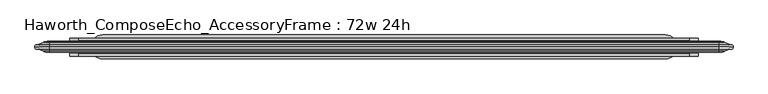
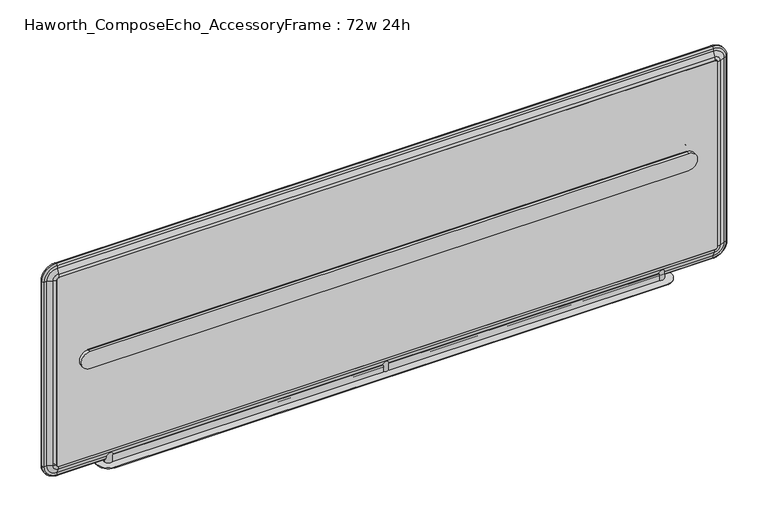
"""IFC4 building model written with IfcOpenShell, lengths in millimetres: furniture geometry, Haworth_ComposeEcho_AccessoryFrame : 72w 24h."""

from ifc_helpers import new_model, si_unit, point, frame, frame_2d, origin, place, context, project, spatial, polyline, circle_curve, ellipse_curve, trimmed, segment, composite_curve, outline, extrude, source, transform, mapped, element, save
from ifc_brep_helpers import plane_surface, cylinder_surface, revolved_surface, advanced_brep


def haworth_composeecho_accessoryframe_72w_24h_1963754a(model_context):
    return source(origin(), model_context, "Body", "SolidModel", [
        extrude(outline(composite_curve([segment(trimmed(circle_curve(frame_2d((1636.1130983, -873.8759879)), 6.3337219), [point((1642.4468202, -873.8759879))], [point((1636.1130983, -880.2097098))], False, "CARTESIAN"), True, "CONTINUOUS"), segment(polyline([(1636.1130983, -880.2097098), (1115.0680007, -880.2097098)]), True, "CONTINUOUS"), segment(trimmed(circle_curve(frame_2d((1115.0680007, -873.8597098)), 6.35), [point((1115.0680007, -880.2097098))], [point((1108.7180007, -873.8597098))], False, "CARTESIAN"), True, "CONTINUOUS"), segment(polyline([(1108.7180007, -873.8597098), (1108.7180007, 878.7402902)]), True, "CONTINUOUS"), segment(trimmed(circle_curve(frame_2d((1115.0680007, 878.7402902)), 6.35), [point((1108.7180007, 878.7402902))], [point((1115.0680007, 885.0902902))], False, "CARTESIAN"), True, "CONTINUOUS"), segment(polyline([(1115.0680007, 885.0902902), (1636.1130983, 885.0902902)]), True, "CONTINUOUS"), segment(trimmed(circle_curve(frame_2d((1636.1130983, 878.7565682)), 6.3337219), [point((1636.1130983, 885.0902902))], [point((1642.4468202, 878.7565682))], False, "CARTESIAN"), True, "CONTINUOUS"), segment(polyline([(1642.4468202, 878.7565682), (1642.4468202, -873.8759879)]), True, "CONTINUOUS")], self_intersect=False)), frame((0.0, -14.1233272, 0.0), z_axis=(0.0, 1.0, 0.0), x_axis=(0.0, 0.0, 1.0)), (0.0, 0.0, 1.0), 28.3652874),
        advanced_brep(
        [(-909.0937217, -5.6620988, 1115.0680007), (-909.0937217, -5.6620988, 1636.1130983), (-911.6146505, 0.0, 1636.1130983), (-911.6146505, 0.0, 1115.0680007), (-880.2097098, 0.0, 1115.0680007), (-880.2097098, 0.0, 1636.1130983), (-880.2097098, -14.1233272, 1636.1130983), (-880.2097098, -14.1233272, 1115.0680007), (-888.4907567, -11.9243222, 1636.1130983), (-888.4907567, -11.9243222, 1115.0680007), (-901.6649167, -6.4813873, 1636.1130983), (-901.6649167, -6.4813873, 1115.0680007), (-873.8759879, -5.6620988, 1671.3308321), (-873.8759879, 0.0, 1673.8517609), (-873.8759879, 0.0, 1642.4468202), (-873.8759879, -14.1233272, 1642.4468202), (-873.8759879, -11.9243222, 1650.7278671), (-873.8759879, -6.4813873, 1663.9020271), (878.7563745, -5.6620988, 1671.3308321), (878.7563745, 0.0, 1673.8517609), (878.7563745, 0.0, 1642.4468202), (878.7563745, -14.1233272, 1642.4468202), (878.7563745, -11.9243222, 1650.7278671), (878.7563745, -6.4813873, 1663.9020271), (913.9741083, -5.6620988, 1636.1130983), (916.495037, 0.0, 1636.1130983), (885.0900964, 0.0, 1636.1130983), (885.0900964, -14.1233272, 1636.1130983), (893.3711433, -11.9243222, 1636.1130983), (906.5453032, -6.4813873, 1636.1130983), (913.9741083, -5.6620988, 1115.0680007), (916.495037, 0.0, 1115.0680007), (885.0900964, 0.0, 1115.0680007), (885.0900964, -14.1233272, 1115.0680007), (893.3711433, -11.9243222, 1115.0680007), (906.5453032, -6.4813873, 1115.0680007), (878.7400964, -5.6620988, 1079.8339888), (878.7400964, 0.0, 1077.31306), (878.7400964, 0.0, 1108.7180007), (878.7400964, -14.1233272, 1108.7180007), (878.7400964, -11.9243222, 1100.4369538), (878.7400964, -6.4813873, 1087.2627938), (-873.8597098, -5.6620988, 1079.8339888), (-873.8597098, 0.0, 1077.31306), (-873.8597098, 0.0, 1108.7180007), (-873.8597098, -14.1233272, 1108.7180007), (-873.8597098, -11.9243222, 1100.4369538), (-873.8597098, -6.4813873, 1087.2627938)],
        [
            (0, 1),
            (1, 2, circle_curve(frame((-907.6630478, -1.6328774, 1636.1130983), z_axis=(0.0, 0.0, -1.0), x_axis=(1.0, 0.0, 0.0)), 4.2756815)),
            (2, 3),
            (3, 0, circle_curve(frame((-907.6630478, -1.6328774, 1115.0680007), z_axis=(0.0, 0.0, 1.0), x_axis=(1.0, 0.0, 0.0)), 4.2756815)),
            (4, 5),
            (5, 6),
            (6, 7),
            (7, 4),
            (6, 8, circle_curve(frame((-877.800131, 11.6426513, 1636.1130983), z_axis=(0.0, 0.0, -1.0), x_axis=(1.0, 0.0, 0.0)), 25.8784026)),
            (8, 9),
            (9, 7, circle_curve(frame((-877.800131, 11.6426513, 1115.0680007), z_axis=(0.0, 0.0, 1.0), x_axis=(1.0, 0.0, 0.0)), 25.8784026)),
            (8, 10, circle_curve(frame((-974.9174674, -202.4478756, 1636.1130983), z_axis=(0.0, 0.0, 1.0), x_axis=(1.0, 0.0, 0.0)), 209.209944)),
            (10, 11),
            (11, 9, circle_curve(frame((-974.9174674, -202.4478756, 1115.0680007), z_axis=(0.0, 0.0, -1.0), x_axis=(1.0, 0.0, 0.0)), 209.209944)),
            (10, 1),
            (0, 11),
            (12, 13, circle_curve(frame((-873.8759879, -1.6328774, 1669.9001582), z_axis=(-1.0, 0.0, 0.0), x_axis=(0.0, 0.0, -1.0)), 4.2756815)),
            (13, 2, circle_curve(frame((-873.8759879, 0.0, 1636.1130983), z_axis=(0.0, -1.0, 0.0), x_axis=(-1.0, 0.0, 0.0)), 37.7386626)),
            (1, 12, circle_curve(frame((-873.8759879, -5.6620988, 1636.1130983), z_axis=(0.0, 1.0, 0.0), x_axis=(-1.0, 0.0, 0.0)), 35.2177338)),
            (14, 15),
            (15, 6, circle_curve(frame((-873.8759879, -14.1233272, 1636.1130983), z_axis=(0.0, -1.0, 0.0), x_axis=(-1.0, 0.0, 0.0)), 6.3337219)),
            (5, 14, circle_curve(frame((-873.8759879, 0.0, 1636.1130983), z_axis=(0.0, 1.0, 0.0), x_axis=(-1.0, 0.0, 0.0)), 6.3337219)),
            (15, 16, circle_curve(frame((-873.8759879, 11.6426513, 1640.0372414), z_axis=(-1.0, 0.0, 0.0), x_axis=(0.0, 0.0, -1.0)), 25.8784026)),
            (16, 8, circle_curve(frame((-873.8759879, -11.9243222, 1636.1130983), z_axis=(0.0, -1.0, 0.0), x_axis=(-1.0, 0.0, 0.0)), 14.6147688)),
            (16, 17, circle_curve(frame((-873.8759879, -202.4478756, 1737.1545778), z_axis=(1.0, 0.0, 0.0), x_axis=(0.0, 0.0, -1.0)), 209.209944)),
            (17, 10, circle_curve(frame((-873.8759879, -6.4813873, 1636.1130983), z_axis=(0.0, -1.0, 0.0), x_axis=(-1.0, 0.0, 0.0)), 27.7889288)),
            (17, 12),
            (12, 18),
            (18, 19, circle_curve(frame((878.7563745, -1.6328774, 1669.9001582), z_axis=(-1.0, 0.0, 0.0), x_axis=(0.0, 0.0, -1.0)), 4.2756815)),
            (19, 13),
            (14, 20),
            (20, 21),
            (21, 15),
            (21, 22, circle_curve(frame((878.7563745, 11.6426513, 1640.0372414), z_axis=(-1.0, 0.0, 0.0), x_axis=(0.0, 0.0, -1.0)), 25.8784026)),
            (22, 16),
            (22, 23, circle_curve(frame((878.7563745, -202.4478756, 1737.1545778), z_axis=(1.0, 0.0, 0.0), x_axis=(0.0, 0.0, -1.0)), 209.209944)),
            (23, 17),
            (23, 18),
            (24, 25, circle_curve(frame((912.5434343, -1.6328774, 1636.1130983), z_axis=(0.0, 0.0, 1.0), x_axis=(-1.0, 0.0, 0.0)), 4.2756815)),
            (25, 19, circle_curve(frame((878.7563745, 0.0, 1636.1130983), z_axis=(0.0, -1.0, 0.0), x_axis=(0.0, 0.0, 1.0)), 37.7386626)),
            (18, 24, circle_curve(frame((878.7563745, -5.6620988, 1636.1130983), z_axis=(0.0, 1.0, 0.0), x_axis=(0.0, 0.0, 1.0)), 35.2177338)),
            (26, 27),
            (27, 21, circle_curve(frame((878.7563745, -14.1233272, 1636.1130983), z_axis=(0.0, -1.0, 0.0), x_axis=(0.0, 0.0, 1.0)), 6.3337219)),
            (20, 26, circle_curve(frame((878.7563745, 0.0, 1636.1130983), z_axis=(0.0, 1.0, 0.0), x_axis=(0.0, 0.0, 1.0)), 6.3337219)),
            (27, 28, circle_curve(frame((882.6805175, 11.6426513, 1636.1130983), z_axis=(0.0, 0.0, 1.0), x_axis=(-1.0, 0.0, 0.0)), 25.8784026)),
            (28, 22, circle_curve(frame((878.7563745, -11.9243222, 1636.1130983), z_axis=(0.0, -1.0, 0.0), x_axis=(0.0, 0.0, 1.0)), 14.6147688)),
            (28, 29, circle_curve(frame((979.7978539, -202.4478756, 1636.1130983), z_axis=(0.0, 0.0, -1.0), x_axis=(-1.0, 0.0, 0.0)), 209.209944)),
            (29, 23, circle_curve(frame((878.7563745, -6.4813873, 1636.1130983), z_axis=(0.0, -1.0, 0.0), x_axis=(0.0, 0.0, 1.0)), 27.7889288)),
            (29, 24),
            (24, 30),
            (30, 31, circle_curve(frame((912.5434343, -1.6328774, 1115.0680007), z_axis=(0.0, 0.0, 1.0), x_axis=(-1.0, 0.0, 0.0)), 4.2756815)),
            (31, 25),
            (26, 32),
            (32, 33),
            (33, 27),
            (33, 34, circle_curve(frame((882.6805175, 11.6426513, 1115.0680007), z_axis=(0.0, 0.0, 1.0), x_axis=(-1.0, 0.0, 0.0)), 25.8784026)),
            (34, 28),
            (34, 35, circle_curve(frame((979.7978539, -202.4478756, 1115.0680007), z_axis=(0.0, 0.0, -1.0), x_axis=(-1.0, 0.0, 0.0)), 209.209944)),
            (35, 29),
            (35, 30),
            (36, 37, circle_curve(frame((878.7400964, -1.6328774, 1081.2646627), z_axis=(1.0, 0.0, 0.0), x_axis=(0.0, 0.0, 1.0)), 4.2756815)),
            (37, 31, circle_curve(frame((878.7400964, 0.0, 1115.0680007), z_axis=(0.0, -1.0, 0.0), x_axis=(1.0, 0.0, 0.0)), 37.7549407)),
            (30, 36, circle_curve(frame((878.7400964, -5.6620988, 1115.0680007), z_axis=(0.0, 1.0, 0.0), x_axis=(1.0, 0.0, 0.0)), 35.2340119)),
            (38, 39),
            (39, 33, circle_curve(frame((878.7400964, -14.1233272, 1115.0680007), z_axis=(0.0, -1.0, 0.0), x_axis=(1.0, 0.0, 0.0)), 6.35)),
            (32, 38, circle_curve(frame((878.7400964, 0.0, 1115.0680007), z_axis=(0.0, 1.0, 0.0), x_axis=(1.0, 0.0, 0.0)), 6.35)),
            (39, 40, circle_curve(frame((878.7400964, 11.6426513, 1111.1275795), z_axis=(1.0, 0.0, 0.0), x_axis=(0.0, 0.0, 1.0)), 25.8784026)),
            (40, 34, circle_curve(frame((878.7400964, -11.9243222, 1115.0680007), z_axis=(0.0, -1.0, 0.0), x_axis=(1.0, 0.0, 0.0)), 14.6310469)),
            (40, 41, circle_curve(frame((878.7400964, -202.4478756, 1014.0102431), z_axis=(-1.0, 0.0, 0.0), x_axis=(0.0, 0.0, 1.0)), 209.209944)),
            (41, 35, circle_curve(frame((878.7400964, -6.4813873, 1115.0680007), z_axis=(0.0, -1.0, 0.0), x_axis=(1.0, 0.0, 0.0)), 27.8052069)),
            (41, 36),
            (36, 42),
            (42, 43, circle_curve(frame((-873.8597098, -1.6328774, 1081.2646627), z_axis=(1.0, 0.0, 0.0), x_axis=(0.0, 0.0, 1.0)), 4.2756815)),
            (43, 37),
            (38, 44),
            (44, 45),
            (45, 39),
            (45, 46, circle_curve(frame((-873.8597098, 11.6426513, 1111.1275795), z_axis=(1.0, 0.0, 0.0), x_axis=(0.0, 0.0, 1.0)), 25.8784026)),
            (46, 40),
            (46, 47, circle_curve(frame((-873.8597098, -202.4478756, 1014.0102431), z_axis=(-1.0, 0.0, 0.0), x_axis=(0.0, 0.0, 1.0)), 209.209944)),
            (47, 41),
            (47, 42),
            (3, 43, circle_curve(frame((-873.8597098, 0.0, 1115.0680007), z_axis=(0.0, -1.0, 0.0), x_axis=(0.0, 0.0, -1.0)), 37.7549407)),
            (42, 0, circle_curve(frame((-873.8597098, -5.6620988, 1115.0680007), z_axis=(0.0, 1.0, 0.0), x_axis=(0.0, 0.0, -1.0)), 35.2340119)),
            (4, 44, circle_curve(frame((-873.8597098, 0.0, 1115.0680007), z_axis=(0.0, -1.0, 0.0), x_axis=(0.0, 0.0, -1.0)), 6.35)),
            (7, 45, circle_curve(frame((-873.8597098, -14.1233272, 1115.0680007), z_axis=(0.0, -1.0, 0.0), x_axis=(0.0, 0.0, -1.0)), 6.35)),
            (9, 46, circle_curve(frame((-873.8597098, -11.9243222, 1115.0680007), z_axis=(0.0, -1.0, 0.0), x_axis=(0.0, 0.0, -1.0)), 14.6310469)),
            (11, 47, circle_curve(frame((-873.8597098, -6.4813873, 1115.0680007), z_axis=(0.0, -1.0, 0.0), x_axis=(0.0, 0.0, -1.0)), 27.8052069)),
        ],
        [
            cylinder_surface(frame((-907.6630478, -1.6328774, 1115.0680007), z_axis=(0.0, 0.0, -1.0), x_axis=(1.0, 0.0, 0.0)), 4.2756815),
            plane_surface(frame((-880.2097098, -14.1233272, 1115.0680007), z_axis=(1.0, 0.0, 0.0), x_axis=(0.0, 0.0, 1.0))),
            cylinder_surface(frame((-877.800131, 11.6426513, 1115.0680007), z_axis=(0.0, 0.0, -1.0), x_axis=(1.0, 0.0, 0.0)), 25.8784026),
            revolved_surface(polyline([(-765.7075233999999, -202.4478756, 1636.1130983), (-765.7075233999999, -202.4478756, 1115.0680007)]), (-974.9174674, -202.4478756, 1115.0680007), (0.0, 0.0, 1.0)),
            plane_surface(frame((-909.0937217, -5.6620988, 1115.0680007), z_axis=(-0.10962074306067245, -0.9939734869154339, 0.0), x_axis=(0.0, 0.0, 1.0))),
            revolved_surface(trimmed(ellipse_curve(frame((-907.6630478, -1.6328774, 1636.1130983), z_axis=(0.0, 0.0, 1.0), x_axis=(1.0, 0.0, 0.0)), 4.2756815, 4.2756815), [point((-911.6146505, 0.0, 1636.1130983))], [point((-909.0937217, -5.6620988, 1636.1130983))], True, "CARTESIAN"), (-873.8759879, 0.0, 1636.1130983), (0.0, -1.0, 0.0)),
            revolved_surface(polyline([(-880.2097098, -14.1233272, 1636.1130983), (-880.2097098, 0.0, 1636.1130983)]), (-873.8759879, 0.0, 1636.1130983), (0.0, -1.0, 0.0)),
            revolved_surface(trimmed(ellipse_curve(frame((-877.800131, 11.6426513, 1636.1130983), z_axis=(0.0, 0.0, 1.0), x_axis=(1.0, 0.0, 0.0)), 25.8784026, 25.8784026), [point((-888.4907567, -11.9243222, 1636.1130983))], [point((-880.2097098, -14.1233272, 1636.1130983))], True, "CARTESIAN"), (-873.8759879, 0.0, 1636.1130983), (0.0, -1.0, 0.0)),
            revolved_surface(trimmed(ellipse_curve(frame((-974.9174674, -202.4478756, 1636.1130983), z_axis=(0.0, 0.0, -1.0), x_axis=(1.0, 0.0, 0.0)), 209.209944, 209.209944), [point((-901.6649167, -6.4813873, 1636.1130983))], [point((-888.4907567, -11.9243222, 1636.1130983))], True, "CARTESIAN"), (-873.8759879, 0.0, 1636.1130983), (0.0, -1.0, 0.0)),
            revolved_surface(polyline([(-909.0937217, -5.6620988, 1636.1130983), (-901.6649167, -6.4813873, 1636.1130983)]), (-873.8759879, 0.0, 1636.1130983), (0.0, -1.0, 0.0)),
            cylinder_surface(frame((-873.8759879, -1.6328774, 1669.9001582), z_axis=(-1.0, 0.0, 0.0), x_axis=(0.0, 0.0, -1.0)), 4.2756815),
            plane_surface(frame((-873.8759879, -14.1233272, 1642.4468202), z_axis=(0.0, 0.0, -1.0), x_axis=(1.0, 0.0, 0.0))),
            cylinder_surface(frame((-873.8759879, 11.6426513, 1640.0372414), z_axis=(-1.0, 0.0, 0.0), x_axis=(0.0, 0.0, -1.0)), 25.8784026),
            revolved_surface(polyline([(878.7563745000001, -202.4478756, 1527.9446338), (-873.8759879, -202.4478756, 1527.9446338)]), (-873.8759879, -202.4478756, 1737.1545778), (1.0, 0.0, 0.0)),
            plane_surface(frame((-873.8759879, -5.6620988, 1671.3308321), z_axis=(0.0, -0.9939734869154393, 0.10962074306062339), x_axis=(1.0, 0.0, 0.0))),
            revolved_surface(trimmed(ellipse_curve(frame((878.7563745, -1.6328774, 1669.9001582), z_axis=(1.0, 0.0, 0.0), x_axis=(0.0, 0.0, -1.0)), 4.2756815, 4.2756815), [point((878.7563745, 0.0, 1673.8517609))], [point((878.7563745, -5.6620988, 1671.3308321))], True, "CARTESIAN"), (878.7563745, 0.0, 1636.1130983), (0.0, -1.0, 0.0)),
            revolved_surface(polyline([(878.7563745, -14.1233272, 1642.4468202), (878.7563745, 0.0, 1642.4468202)]), (878.7563745, 0.0, 1636.1130983), (0.0, -1.0, 0.0)),
            revolved_surface(trimmed(ellipse_curve(frame((878.7563745, 11.6426513, 1640.0372414), z_axis=(1.0, 0.0, 0.0), x_axis=(0.0, 0.0, -1.0)), 25.8784026, 25.8784026), [point((878.7563745, -11.9243222, 1650.7278671))], [point((878.7563745, -14.1233272, 1642.4468202))], True, "CARTESIAN"), (878.7563745, 0.0, 1636.1130983), (0.0, -1.0, 0.0)),
            revolved_surface(trimmed(ellipse_curve(frame((878.7563745, -202.4478756, 1737.1545778), z_axis=(-1.0, 0.0, 0.0), x_axis=(0.0, 0.0, -1.0)), 209.209944, 209.209944), [point((878.7563745, -6.4813873, 1663.9020271))], [point((878.7563745, -11.9243222, 1650.7278671))], True, "CARTESIAN"), (878.7563745, 0.0, 1636.1130983), (0.0, -1.0, 0.0)),
            revolved_surface(polyline([(878.7563745, -5.6620988, 1671.3308321), (878.7563745, -6.4813873, 1663.9020271)]), (878.7563745, 0.0, 1636.1130983), (0.0, -1.0, 0.0)),
            cylinder_surface(frame((912.5434343, -1.6328774, 1636.1130983), z_axis=(0.0, 0.0, 1.0), x_axis=(-1.0, 0.0, 0.0)), 4.2756815),
            plane_surface(frame((885.0900964, -14.1233272, 1636.1130983), z_axis=(-1.0, 0.0, 0.0), x_axis=(0.0, 0.0, -1.0))),
            cylinder_surface(frame((882.6805175, 11.6426513, 1636.1130983), z_axis=(0.0, 0.0, 1.0), x_axis=(-1.0, 0.0, 0.0)), 25.8784026),
            revolved_surface(polyline([(770.5879098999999, -202.4478756, 1115.0680007), (770.5879098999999, -202.4478756, 1636.1130983)]), (979.7978539, -202.4478756, 1636.1130983), (0.0, 0.0, -1.0)),
            plane_surface(frame((913.9741083, -5.6620988, 1636.1130983), z_axis=(0.10962074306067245, -0.9939734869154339, 0.0), x_axis=(0.0, 0.0, -1.0))),
            revolved_surface(trimmed(ellipse_curve(frame((912.5434343, -1.6328774, 1115.0680007), z_axis=(0.0, 0.0, -1.0), x_axis=(-1.0, 0.0, 0.0)), 4.2756815, 4.2756815), [point((916.495037, 0.0, 1115.0680007))], [point((913.9741083, -5.6620988, 1115.0680007))], True, "CARTESIAN"), (878.7400964, 0.0, 1115.0680007), (0.0, -1.0, 0.0)),
            revolved_surface(polyline([(885.0900964, -14.1233272, 1115.0680007), (885.0900964, 0.0, 1115.0680007)]), (878.7400964, 0.0, 1115.0680007), (0.0, -1.0, 0.0)),
            revolved_surface(trimmed(ellipse_curve(frame((882.6805175, 11.6426513, 1115.0680007), z_axis=(0.0, 0.0, -1.0), x_axis=(-1.0, 0.0, 0.0)), 25.8784026, 25.8784026), [point((893.3711433, -11.9243222, 1115.0680007))], [point((885.0900964, -14.1233272, 1115.0680007))], True, "CARTESIAN"), (878.7400964, 0.0, 1115.0680007), (0.0, -1.0, 0.0)),
            revolved_surface(trimmed(ellipse_curve(frame((979.7978539, -202.4478756, 1115.0680007), z_axis=(0.0, 0.0, 1.0), x_axis=(-1.0, 0.0, 0.0)), 209.209944, 209.209944), [point((906.5453032, -6.4813873, 1115.0680007))], [point((893.3711433, -11.9243222, 1115.0680007))], True, "CARTESIAN"), (878.7400964, 0.0, 1115.0680007), (0.0, -1.0, 0.0)),
            revolved_surface(polyline([(913.9741083, -5.6620988, 1115.0680007), (906.5453032, -6.4813873, 1115.0680007)]), (878.7400964, 0.0, 1115.0680007), (0.0, -1.0, 0.0)),
            cylinder_surface(frame((878.7400964, -1.6328774, 1081.2646627), z_axis=(1.0, 0.0, 0.0), x_axis=(0.0, 0.0, 1.0)), 4.2756815),
            plane_surface(frame((878.7400964, -14.1233272, 1108.7180007), z_axis=(0.0, 0.0, 1.0), x_axis=(-1.0, 0.0, 0.0))),
            cylinder_surface(frame((878.7400964, 11.6426513, 1111.1275795), z_axis=(1.0, 0.0, 0.0), x_axis=(0.0, 0.0, 1.0)), 25.8784026),
            revolved_surface(polyline([(-873.8597097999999, -202.4478756, 1223.2201871), (878.7400964, -202.4478756, 1223.2201871)]), (878.7400964, -202.4478756, 1014.0102431), (-1.0, 0.0, 0.0)),
            plane_surface(frame((878.7400964, -5.6620988, 1079.8339888), z_axis=(0.0, -0.9939734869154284, -0.1096207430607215), x_axis=(-1.0, 0.0, 0.0))),
            revolved_surface(trimmed(ellipse_curve(frame((-873.8597098, -1.6328774, 1081.2646627), z_axis=(-1.0, 0.0, 0.0), x_axis=(0.0, 0.0, 1.0)), 4.2756815, 4.2756815), [point((-873.8597098, 0.0, 1077.31306))], [point((-873.8597098, -5.6620988, 1079.8339888))], True, "CARTESIAN"), (-873.8597098, 0.0, 1115.0680007), (0.0, -1.0, 0.0)),
            plane_surface(frame((-873.8597098, 0.0, 1115.0680007), z_axis=(0.0, 1.0, 0.0), x_axis=(0.0, 0.0, -1.0))),
            revolved_surface(polyline([(-873.8597098, -14.1233272, 1108.7180007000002), (-873.8597098, 0.0, 1108.7180007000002)]), (-873.8597098, 0.0, 1115.0680007), (0.0, -1.0, 0.0)),
            revolved_surface(trimmed(ellipse_curve(frame((-873.8597098, 11.6426513, 1111.1275795), z_axis=(-1.0, 0.0, 0.0), x_axis=(0.0, 0.0, 1.0)), 25.8784026, 25.8784026), [point((-873.8597098, -11.9243222, 1100.4369538))], [point((-873.8597098, -14.1233272, 1108.7180007))], True, "CARTESIAN"), (-873.8597098, 0.0, 1115.0680007), (0.0, -1.0, 0.0)),
            revolved_surface(trimmed(ellipse_curve(frame((-873.8597098, -202.4478756, 1014.0102431), z_axis=(1.0, 0.0, 0.0), x_axis=(0.0, 0.0, 1.0)), 209.209944, 209.209944), [point((-873.8597098, -6.4813873, 1087.2627938))], [point((-873.8597098, -11.9243222, 1100.4369538))], True, "CARTESIAN"), (-873.8597098, 0.0, 1115.0680007), (0.0, -1.0, 0.0)),
            revolved_surface(polyline([(-873.8597098, -5.6620988, 1079.8339888), (-873.8597098, -6.4813873, 1087.2627938)]), (-873.8597098, 0.0, 1115.0680007), (0.0, -1.0, 0.0)),
        ],
        [
            (0, [[1, 2, 3, 4]]),
            (1, [[5, 6, 7, 8]]),
            (2, [[-7, 9, 10, 11]]),
            (3, [[-10, 12, 13, 14]]),
            (4, [[-13, 15, -1, 16]]),
            (5, [[17, 18, -2, 19]]),
            (6, [[20, 21, -6, 22]]),
            (7, [[23, 24, -9, -21]]),
            (8, [[25, 26, -12, -24]]),
            (9, [[27, -19, -15, -26]]),
            (10, [[28, 29, 30, -17]]),
            (11, [[31, 32, 33, -20]]),
            (12, [[-33, 34, 35, -23]]),
            (13, [[-35, 36, 37, -25]]),
            (14, [[-37, 38, -28, -27]]),
            (15, [[39, 40, -29, 41]]),
            (16, [[42, 43, -32, 44]]),
            (17, [[45, 46, -34, -43]]),
            (18, [[47, 48, -36, -46]]),
            (19, [[49, -41, -38, -48]]),
            (20, [[50, 51, 52, -39]]),
            (21, [[53, 54, 55, -42]]),
            (22, [[-55, 56, 57, -45]]),
            (23, [[-57, 58, 59, -47]]),
            (24, [[-59, 60, -50, -49]]),
            (25, [[61, 62, -51, 63]]),
            (26, [[64, 65, -54, 66]]),
            (27, [[67, 68, -56, -65]]),
            (28, [[69, 70, -58, -68]]),
            (29, [[71, -63, -60, -70]]),
            (30, [[72, 73, 74, -61]]),
            (31, [[75, 76, 77, -64]]),
            (32, [[-77, 78, 79, -67]]),
            (33, [[-79, 80, 81, -69]]),
            (34, [[-81, 82, -72, -71]]),
            (35, [[-4, 83, -73, 84]]),
            (36, [[-3, -18, -30, -40, -52, -62, -74, -83], [-53, -44, -31, -22, -5, 85, -75, -66]]),
            (37, [[-8, 86, -76, -85]]),
            (38, [[-11, 87, -78, -86]]),
            (39, [[-14, 88, -80, -87]]),
            (40, [[-16, -84, -82, -88]]),
        ],
    ),
        advanced_brep(
        [(-911.6146505, 0.0, 1115.0680007), (-911.6146505, 0.0, 1636.1130983), (-909.0937217, 5.6620988, 1636.1130983), (-909.0937217, 5.6620988, 1115.0680007), (-880.2097098, 14.1233272, 1115.0680007), (-880.2097098, 14.1233272, 1636.1130983), (-880.2097098, 0.0, 1636.1130983), (-880.2097098, 0.0, 1115.0680007), (-888.4907567, 11.9243222, 1115.0680007), (-888.4907567, 11.9243222, 1636.1130983), (-901.6649167, 6.4813873, 1115.0680007), (-901.6649167, 6.4813873, 1636.1130983), (-873.8759879, 0.0, 1673.8517609), (-873.8759879, 5.6620988, 1671.3308321), (-873.8759879, 14.1233272, 1642.4468202), (-873.8759879, 0.0, 1642.4468202), (-873.8759879, 11.9243222, 1650.7278671), (-873.8759879, 6.4813873, 1663.9020271), (878.7563745, 0.0, 1673.8517609), (878.7563745, 5.6620988, 1671.3308321), (878.7563745, 14.1233272, 1642.4468202), (878.7563745, 0.0, 1642.4468202), (878.7563745, 11.9243222, 1650.7278671), (878.7563745, 6.4813873, 1663.9020271), (916.495037, 0.0, 1636.1130983), (913.9741083, 5.6620988, 1636.1130983), (885.0900964, 14.1233272, 1636.1130983), (885.0900964, 0.0, 1636.1130983), (893.3711433, 11.9243222, 1636.1130983), (906.5453032, 6.4813873, 1636.1130983), (916.495037, 0.0, 1115.0680007), (913.9741083, 5.6620988, 1115.0680007), (885.0900964, 14.1233272, 1115.0680007), (885.0900964, 0.0, 1115.0680007), (893.3711433, 11.9243222, 1115.0680007), (906.5453032, 6.4813873, 1115.0680007), (878.7400964, 0.0, 1077.31306), (878.7400964, 5.6620988, 1079.8339888), (878.7400964, 14.1233272, 1108.7180007), (878.7400964, 0.0, 1108.7180007), (878.7400964, 11.9243222, 1100.4369538), (878.7400964, 6.4813873, 1087.2627938), (-873.8597098, 0.0, 1077.31306), (-873.8597098, 5.6620988, 1079.8339888), (-873.8597098, 14.1233272, 1108.7180007), (-873.8597098, 0.0, 1108.7180007), (-873.8597098, 11.9243222, 1100.4369538), (-873.8597098, 6.4813873, 1087.2627938)],
        [
            (0, 1),
            (1, 2, circle_curve(frame((-907.6630478, 1.6328774, 1636.1130983), z_axis=(0.0, 0.0, -1.0), x_axis=(-1.0, 0.0, 0.0)), 4.2756815)),
            (2, 3),
            (3, 0, circle_curve(frame((-907.6630478, 1.6328774, 1115.0680007), z_axis=(0.0, 0.0, 1.0), x_axis=(-1.0, 0.0, 0.0)), 4.2756815)),
            (4, 5),
            (5, 6),
            (6, 7),
            (7, 4),
            (8, 9),
            (9, 5, circle_curve(frame((-877.800131, -11.6426513, 1636.1130983), z_axis=(0.0, 0.0, -1.0), x_axis=(-1.0, 0.0, 0.0)), 25.8784026)),
            (4, 8, circle_curve(frame((-877.800131, -11.6426513, 1115.0680007), z_axis=(0.0, 0.0, 1.0), x_axis=(-1.0, 0.0, 0.0)), 25.8784026)),
            (10, 11),
            (11, 9, circle_curve(frame((-974.9174674, 202.4478756, 1636.1130983), z_axis=(0.0, 0.0, 1.0), x_axis=(-1.0, 0.0, 0.0)), 209.209944)),
            (8, 10, circle_curve(frame((-974.9174674, 202.4478756, 1115.0680007), z_axis=(0.0, 0.0, -1.0), x_axis=(-1.0, 0.0, 0.0)), 209.209944)),
            (2, 11),
            (10, 3),
            (12, 13, circle_curve(frame((-873.8759879, 1.6328774, 1669.9001582), z_axis=(-1.0, 0.0, 0.0), x_axis=(0.0, 0.0, 1.0)), 4.2756815)),
            (13, 2, circle_curve(frame((-873.8759879, 5.6620988, 1636.1130983), z_axis=(0.0, -1.0, 0.0), x_axis=(-1.0, 0.0, 0.0)), 35.2177338)),
            (1, 12, circle_curve(frame((-873.8759879, 0.0, 1636.1130983), z_axis=(0.0, 1.0, 0.0), x_axis=(-1.0, 0.0, 0.0)), 37.7386626)),
            (14, 15),
            (15, 6, circle_curve(frame((-873.8759879, 0.0, 1636.1130983), z_axis=(0.0, -1.0, 0.0), x_axis=(-1.0, 0.0, 0.0)), 6.3337219)),
            (5, 14, circle_curve(frame((-873.8759879, 14.1233272, 1636.1130983), z_axis=(0.0, 1.0, 0.0), x_axis=(-1.0, 0.0, 0.0)), 6.3337219)),
            (16, 14, circle_curve(frame((-873.8759879, -11.6426513, 1640.0372414), z_axis=(-1.0, 0.0, 0.0), x_axis=(0.0, 0.0, 1.0)), 25.8784026)),
            (9, 16, circle_curve(frame((-873.8759879, 11.9243222, 1636.1130983), z_axis=(0.0, 1.0, 0.0), x_axis=(-1.0, 0.0, 0.0)), 14.6147688)),
            (17, 16, circle_curve(frame((-873.8759879, 202.4478756, 1737.1545778), z_axis=(1.0, 0.0, 0.0), x_axis=(0.0, 0.0, 1.0)), 209.209944)),
            (11, 17, circle_curve(frame((-873.8759879, 6.4813873, 1636.1130983), z_axis=(0.0, 1.0, 0.0), x_axis=(-1.0, 0.0, 0.0)), 27.7889288)),
            (13, 17),
            (12, 18),
            (18, 19, circle_curve(frame((878.7563745, 1.6328774, 1669.9001582), z_axis=(-1.0, 0.0, 0.0), x_axis=(0.0, 0.0, 1.0)), 4.2756815)),
            (19, 13),
            (14, 20),
            (20, 21),
            (21, 15),
            (16, 22),
            (22, 20, circle_curve(frame((878.7563745, -11.6426513, 1640.0372414), z_axis=(-1.0, 0.0, 0.0), x_axis=(0.0, 0.0, 1.0)), 25.8784026)),
            (17, 23),
            (23, 22, circle_curve(frame((878.7563745, 202.4478756, 1737.1545778), z_axis=(1.0, 0.0, 0.0), x_axis=(0.0, 0.0, 1.0)), 209.209944)),
            (19, 23),
            (24, 25, circle_curve(frame((912.5434343, 1.6328774, 1636.1130983), z_axis=(0.0, 0.0, 1.0), x_axis=(1.0, 0.0, 0.0)), 4.2756815)),
            (25, 19, circle_curve(frame((878.7563745, 5.6620988, 1636.1130983), z_axis=(0.0, -1.0, 0.0), x_axis=(0.0, 0.0, 1.0)), 35.2177338)),
            (18, 24, circle_curve(frame((878.7563745, 0.0, 1636.1130983), z_axis=(0.0, 1.0, 0.0), x_axis=(0.0, 0.0, 1.0)), 37.7386626)),
            (26, 27),
            (27, 21, circle_curve(frame((878.7563745, 0.0, 1636.1130983), z_axis=(0.0, -1.0, 0.0), x_axis=(0.0, 0.0, 1.0)), 6.3337219)),
            (20, 26, circle_curve(frame((878.7563745, 14.1233272, 1636.1130983), z_axis=(0.0, 1.0, 0.0), x_axis=(0.0, 0.0, 1.0)), 6.3337219)),
            (28, 26, circle_curve(frame((882.6805175, -11.6426513, 1636.1130983), z_axis=(0.0, 0.0, 1.0), x_axis=(1.0, 0.0, 0.0)), 25.8784026)),
            (22, 28, circle_curve(frame((878.7563745, 11.9243222, 1636.1130983), z_axis=(0.0, 1.0, 0.0), x_axis=(0.0, 0.0, 1.0)), 14.6147688)),
            (29, 28, circle_curve(frame((979.7978539, 202.4478756, 1636.1130983), z_axis=(0.0, 0.0, -1.0), x_axis=(1.0, 0.0, 0.0)), 209.209944)),
            (23, 29, circle_curve(frame((878.7563745, 6.4813873, 1636.1130983), z_axis=(0.0, 1.0, 0.0), x_axis=(0.0, 0.0, 1.0)), 27.7889288)),
            (25, 29),
            (24, 30),
            (30, 31, circle_curve(frame((912.5434343, 1.6328774, 1115.0680007), z_axis=(0.0, 0.0, 1.0), x_axis=(1.0, 0.0, 0.0)), 4.2756815)),
            (31, 25),
            (26, 32),
            (32, 33),
            (33, 27),
            (28, 34),
            (34, 32, circle_curve(frame((882.6805175, -11.6426513, 1115.0680007), z_axis=(0.0, 0.0, 1.0), x_axis=(1.0, 0.0, 0.0)), 25.8784026)),
            (29, 35),
            (35, 34, circle_curve(frame((979.7978539, 202.4478756, 1115.0680007), z_axis=(0.0, 0.0, -1.0), x_axis=(1.0, 0.0, 0.0)), 209.209944)),
            (31, 35),
            (36, 37, circle_curve(frame((878.7400964, 1.6328774, 1081.2646627), z_axis=(1.0, 0.0, 0.0), x_axis=(0.0, 0.0, -1.0)), 4.2756815)),
            (37, 31, circle_curve(frame((878.7400964, 5.6620988, 1115.0680007), z_axis=(0.0, -1.0, 0.0), x_axis=(1.0, 0.0, 0.0)), 35.2340119)),
            (30, 36, circle_curve(frame((878.7400964, 0.0, 1115.0680007), z_axis=(0.0, 1.0, 0.0), x_axis=(1.0, 0.0, 0.0)), 37.7549407)),
            (38, 39),
            (39, 33, circle_curve(frame((878.7400964, 0.0, 1115.0680007), z_axis=(0.0, -1.0, 0.0), x_axis=(1.0, 0.0, 0.0)), 6.35)),
            (32, 38, circle_curve(frame((878.7400964, 14.1233272, 1115.0680007), z_axis=(0.0, 1.0, 0.0), x_axis=(1.0, 0.0, 0.0)), 6.35)),
            (40, 38, circle_curve(frame((878.7400964, -11.6426513, 1111.1275795), z_axis=(1.0, 0.0, 0.0), x_axis=(0.0, 0.0, -1.0)), 25.8784026)),
            (34, 40, circle_curve(frame((878.7400964, 11.9243222, 1115.0680007), z_axis=(0.0, 1.0, 0.0), x_axis=(1.0, 0.0, 0.0)), 14.6310469)),
            (41, 40, circle_curve(frame((878.7400964, 202.4478756, 1014.0102431), z_axis=(-1.0, 0.0, 0.0), x_axis=(0.0, 0.0, -1.0)), 209.209944)),
            (35, 41, circle_curve(frame((878.7400964, 6.4813873, 1115.0680007), z_axis=(0.0, 1.0, 0.0), x_axis=(1.0, 0.0, 0.0)), 27.8052069)),
            (37, 41),
            (36, 42),
            (42, 43, circle_curve(frame((-873.8597098, 1.6328774, 1081.2646627), z_axis=(1.0, 0.0, 0.0), x_axis=(0.0, 0.0, -1.0)), 4.2756815)),
            (43, 37),
            (38, 44),
            (44, 45),
            (45, 39),
            (40, 46),
            (46, 44, circle_curve(frame((-873.8597098, -11.6426513, 1111.1275795), z_axis=(1.0, 0.0, 0.0), x_axis=(0.0, 0.0, -1.0)), 25.8784026)),
            (41, 47),
            (47, 46, circle_curve(frame((-873.8597098, 202.4478756, 1014.0102431), z_axis=(-1.0, 0.0, 0.0), x_axis=(0.0, 0.0, -1.0)), 209.209944)),
            (43, 47),
            (3, 43, circle_curve(frame((-873.8597098, 5.6620988, 1115.0680007), z_axis=(0.0, -1.0, 0.0), x_axis=(0.0, 0.0, -1.0)), 35.2340119)),
            (42, 0, circle_curve(frame((-873.8597098, 0.0, 1115.0680007), z_axis=(0.0, 1.0, 0.0), x_axis=(0.0, 0.0, -1.0)), 37.7549407)),
            (45, 7, circle_curve(frame((-873.8597098, 0.0, 1115.0680007), z_axis=(0.0, 1.0, 0.0), x_axis=(0.0, 0.0, -1.0)), 6.35)),
            (44, 4, circle_curve(frame((-873.8597098, 14.1233272, 1115.0680007), z_axis=(0.0, 1.0, 0.0), x_axis=(0.0, 0.0, -1.0)), 6.35)),
            (46, 8, circle_curve(frame((-873.8597098, 11.9243222, 1115.0680007), z_axis=(0.0, 1.0, 0.0), x_axis=(0.0, 0.0, -1.0)), 14.6310469)),
            (47, 10, circle_curve(frame((-873.8597098, 6.4813873, 1115.0680007), z_axis=(0.0, 1.0, 0.0), x_axis=(0.0, 0.0, -1.0)), 27.8052069)),
        ],
        [
            cylinder_surface(frame((-907.6630478, 1.6328774, 1115.0680007), z_axis=(0.0, 0.0, -1.0), x_axis=(-1.0, 0.0, 0.0)), 4.2756815),
            plane_surface(frame((-880.2097098, 0.0, 1115.0680007), z_axis=(1.0, 0.0, 0.0), x_axis=(0.0, 0.0, 1.0))),
            cylinder_surface(frame((-877.800131, -11.6426513, 1115.0680007), z_axis=(0.0, 0.0, -1.0), x_axis=(-1.0, 0.0, 0.0)), 25.8784026),
            revolved_surface(polyline([(-1184.1274114, 202.4478756, 1636.1130983), (-1184.1274114, 202.4478756, 1115.0680007)]), (-974.9174674, 202.4478756, 1115.0680007), (0.0, 0.0, 1.0)),
            plane_surface(frame((-901.6649167, 6.4813873, 1115.0680007), z_axis=(-0.10962074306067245, 0.9939734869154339, 0.0), x_axis=(0.0, 0.0, 1.0))),
            revolved_surface(trimmed(ellipse_curve(frame((-907.6630478, 1.6328774, 1636.1130983), z_axis=(0.0, 0.0, 1.0), x_axis=(-1.0, 0.0, 0.0)), 4.2756815, 4.2756815), [point((-909.0937217, 5.6620988, 1636.1130983))], [point((-911.6146505, 0.0, 1636.1130983))], True, "CARTESIAN"), (-873.8759879, 0.0, 1636.1130983), (0.0, -1.0, 0.0)),
            revolved_surface(polyline([(-880.2097098, 0.0, 1636.1130983), (-880.2097098, 14.1233272, 1636.1130983)]), (-873.8759879, 0.0, 1636.1130983), (0.0, -1.0, 0.0)),
            revolved_surface(trimmed(ellipse_curve(frame((-877.800131, -11.6426513, 1636.1130983), z_axis=(0.0, 0.0, 1.0), x_axis=(-1.0, 0.0, 0.0)), 25.8784026, 25.8784026), [point((-880.2097098, 14.1233272, 1636.1130983))], [point((-888.4907567, 11.9243222, 1636.1130983))], True, "CARTESIAN"), (-873.8759879, 0.0, 1636.1130983), (0.0, -1.0, 0.0)),
            revolved_surface(trimmed(ellipse_curve(frame((-974.9174674, 202.4478756, 1636.1130983), z_axis=(0.0, 0.0, -1.0), x_axis=(-1.0, 0.0, 0.0)), 209.209944, 209.209944), [point((-888.4907567, 11.9243222, 1636.1130983))], [point((-901.6649167, 6.4813873, 1636.1130983))], True, "CARTESIAN"), (-873.8759879, 0.0, 1636.1130983), (0.0, -1.0, 0.0)),
            revolved_surface(polyline([(-901.6649167, 6.4813873, 1636.1130983), (-909.0937217, 5.6620988, 1636.1130983)]), (-873.8759879, 0.0, 1636.1130983), (0.0, -1.0, 0.0)),
            cylinder_surface(frame((-873.8759879, 1.6328774, 1669.9001582), z_axis=(-1.0, 0.0, 0.0), x_axis=(0.0, 0.0, 1.0)), 4.2756815),
            plane_surface(frame((-873.8759879, 0.0, 1642.4468202), z_axis=(0.0, 0.0, -1.0), x_axis=(1.0, 0.0, 0.0))),
            cylinder_surface(frame((-873.8759879, -11.6426513, 1640.0372414), z_axis=(-1.0, 0.0, 0.0), x_axis=(0.0, 0.0, 1.0)), 25.8784026),
            revolved_surface(polyline([(878.7563745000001, 202.4478756, 1946.3645218), (-873.8759879, 202.4478756, 1946.3645218)]), (-873.8759879, 202.4478756, 1737.1545778), (1.0, 0.0, 0.0)),
            plane_surface(frame((-873.8759879, 6.4813873, 1663.9020271), z_axis=(0.0, 0.9939734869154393, 0.10962074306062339), x_axis=(1.0, 0.0, 0.0))),
            revolved_surface(trimmed(ellipse_curve(frame((878.7563745, 1.6328774, 1669.9001582), z_axis=(1.0, 0.0, 0.0), x_axis=(0.0, 0.0, 1.0)), 4.2756815, 4.2756815), [point((878.7563745, 5.6620988, 1671.3308321))], [point((878.7563745, 0.0, 1673.8517609))], True, "CARTESIAN"), (878.7563745, 0.0, 1636.1130983), (0.0, -1.0, 0.0)),
            revolved_surface(polyline([(878.7563745, 0.0, 1642.4468202), (878.7563745, 14.1233272, 1642.4468202)]), (878.7563745, 0.0, 1636.1130983), (0.0, -1.0, 0.0)),
            revolved_surface(trimmed(ellipse_curve(frame((878.7563745, -11.6426513, 1640.0372414), z_axis=(1.0, 0.0, 0.0), x_axis=(0.0, 0.0, 1.0)), 25.8784026, 25.8784026), [point((878.7563745, 14.1233272, 1642.4468202))], [point((878.7563745, 11.9243222, 1650.7278671))], True, "CARTESIAN"), (878.7563745, 0.0, 1636.1130983), (0.0, -1.0, 0.0)),
            revolved_surface(trimmed(ellipse_curve(frame((878.7563745, 202.4478756, 1737.1545778), z_axis=(-1.0, 0.0, 0.0), x_axis=(0.0, 0.0, 1.0)), 209.209944, 209.209944), [point((878.7563745, 11.9243222, 1650.7278671))], [point((878.7563745, 6.4813873, 1663.9020271))], True, "CARTESIAN"), (878.7563745, 0.0, 1636.1130983), (0.0, -1.0, 0.0)),
            revolved_surface(polyline([(878.7563745, 6.4813873, 1663.9020271), (878.7563745, 5.6620988, 1671.3308321)]), (878.7563745, 0.0, 1636.1130983), (0.0, -1.0, 0.0)),
            cylinder_surface(frame((912.5434343, 1.6328774, 1636.1130983), z_axis=(0.0, 0.0, 1.0), x_axis=(1.0, 0.0, 0.0)), 4.2756815),
            plane_surface(frame((885.0900964, 0.0, 1636.1130983), z_axis=(-1.0, 0.0, 0.0), x_axis=(0.0, 0.0, -1.0))),
            cylinder_surface(frame((882.6805175, -11.6426513, 1636.1130983), z_axis=(0.0, 0.0, 1.0), x_axis=(1.0, 0.0, 0.0)), 25.8784026),
            revolved_surface(polyline([(1189.0077979, 202.4478756, 1115.0680007), (1189.0077979, 202.4478756, 1636.1130983)]), (979.7978539, 202.4478756, 1636.1130983), (0.0, 0.0, -1.0)),
            plane_surface(frame((906.5453032, 6.4813873, 1636.1130983), z_axis=(0.10962074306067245, 0.9939734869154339, 0.0), x_axis=(0.0, 0.0, -1.0))),
            revolved_surface(trimmed(ellipse_curve(frame((912.5434343, 1.6328774, 1115.0680007), z_axis=(0.0, 0.0, -1.0), x_axis=(1.0, 0.0, 0.0)), 4.2756815, 4.2756815), [point((913.9741083, 5.6620988, 1115.0680007))], [point((916.495037, 0.0, 1115.0680007))], True, "CARTESIAN"), (878.7400964, 0.0, 1115.0680007), (0.0, -1.0, 0.0)),
            revolved_surface(polyline([(885.0900964, 0.0, 1115.0680007), (885.0900964, 14.1233272, 1115.0680007)]), (878.7400964, 0.0, 1115.0680007), (0.0, -1.0, 0.0)),
            revolved_surface(trimmed(ellipse_curve(frame((882.6805175, -11.6426513, 1115.0680007), z_axis=(0.0, 0.0, -1.0), x_axis=(1.0, 0.0, 0.0)), 25.8784026, 25.8784026), [point((885.0900964, 14.1233272, 1115.0680007))], [point((893.3711433, 11.9243222, 1115.0680007))], True, "CARTESIAN"), (878.7400964, 0.0, 1115.0680007), (0.0, -1.0, 0.0)),
            revolved_surface(trimmed(ellipse_curve(frame((979.7978539, 202.4478756, 1115.0680007), z_axis=(0.0, 0.0, 1.0), x_axis=(1.0, 0.0, 0.0)), 209.209944, 209.209944), [point((893.3711433, 11.9243222, 1115.0680007))], [point((906.5453032, 6.4813873, 1115.0680007))], True, "CARTESIAN"), (878.7400964, 0.0, 1115.0680007), (0.0, -1.0, 0.0)),
            revolved_surface(polyline([(906.5453032, 6.4813873, 1115.0680007), (913.9741083, 5.6620988, 1115.0680007)]), (878.7400964, 0.0, 1115.0680007), (0.0, -1.0, 0.0)),
            cylinder_surface(frame((878.7400964, 1.6328774, 1081.2646627), z_axis=(1.0, 0.0, 0.0), x_axis=(0.0, 0.0, -1.0)), 4.2756815),
            plane_surface(frame((878.7400964, 0.0, 1108.7180007), z_axis=(0.0, 0.0, 1.0), x_axis=(-1.0, 0.0, 0.0))),
            cylinder_surface(frame((878.7400964, -11.6426513, 1111.1275795), z_axis=(1.0, 0.0, 0.0), x_axis=(0.0, 0.0, -1.0)), 25.8784026),
            revolved_surface(polyline([(-873.8597097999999, 202.4478756, 804.8002991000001), (878.7400964, 202.4478756, 804.8002991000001)]), (878.7400964, 202.4478756, 1014.0102431), (-1.0, 0.0, 0.0)),
            plane_surface(frame((878.7400964, 6.4813873, 1087.2627938), z_axis=(0.0, 0.9939734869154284, -0.1096207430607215), x_axis=(-1.0, 0.0, 0.0))),
            revolved_surface(trimmed(ellipse_curve(frame((-873.8597098, 1.6328774, 1081.2646627), z_axis=(-1.0, 0.0, 0.0), x_axis=(0.0, 0.0, -1.0)), 4.2756815, 4.2756815), [point((-873.8597098, 5.6620988, 1079.8339888))], [point((-873.8597098, 0.0, 1077.31306))], True, "CARTESIAN"), (-873.8597098, 0.0, 1115.0680007), (0.0, -1.0, 0.0)),
            plane_surface(frame((-873.8597098, 0.0, 1115.0680007), z_axis=(0.0, -1.0, 0.0), x_axis=(0.0, 0.0, -1.0))),
            revolved_surface(polyline([(-873.8597098, 0.0, 1108.7180007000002), (-873.8597098, 14.1233272, 1108.7180007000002)]), (-873.8597098, 0.0, 1115.0680007), (0.0, -1.0, 0.0)),
            revolved_surface(trimmed(ellipse_curve(frame((-873.8597098, -11.6426513, 1111.1275795), z_axis=(-1.0, 0.0, 0.0), x_axis=(0.0, 0.0, -1.0)), 25.8784026, 25.8784026), [point((-873.8597098, 14.1233272, 1108.7180007))], [point((-873.8597098, 11.9243222, 1100.4369538))], True, "CARTESIAN"), (-873.8597098, 0.0, 1115.0680007), (0.0, -1.0, 0.0)),
            revolved_surface(trimmed(ellipse_curve(frame((-873.8597098, 202.4478756, 1014.0102431), z_axis=(1.0, 0.0, 0.0), x_axis=(0.0, 0.0, -1.0)), 209.209944, 209.209944), [point((-873.8597098, 11.9243222, 1100.4369538))], [point((-873.8597098, 6.4813873, 1087.2627938))], True, "CARTESIAN"), (-873.8597098, 0.0, 1115.0680007), (0.0, -1.0, 0.0)),
            revolved_surface(polyline([(-873.8597098, 6.4813873, 1087.2627938), (-873.8597098, 5.6620988, 1079.8339888)]), (-873.8597098, 0.0, 1115.0680007), (0.0, -1.0, 0.0)),
        ],
        [
            (0, [[1, 2, 3, 4]]),
            (1, [[5, 6, 7, 8]]),
            (2, [[9, 10, -5, 11]]),
            (3, [[12, 13, -9, 14]]),
            (4, [[-3, 15, -12, 16]]),
            (5, [[17, 18, -2, 19]]),
            (6, [[20, 21, -6, 22]]),
            (7, [[23, -22, -10, 24]]),
            (8, [[25, -24, -13, 26]]),
            (9, [[27, -26, -15, -18]]),
            (10, [[28, 29, 30, -17]]),
            (11, [[31, 32, 33, -20]]),
            (12, [[34, 35, -31, -23]]),
            (13, [[36, 37, -34, -25]]),
            (14, [[-30, 38, -36, -27]]),
            (15, [[39, 40, -29, 41]]),
            (16, [[42, 43, -32, 44]]),
            (17, [[45, -44, -35, 46]]),
            (18, [[47, -46, -37, 48]]),
            (19, [[49, -48, -38, -40]]),
            (20, [[50, 51, 52, -39]]),
            (21, [[53, 54, 55, -42]]),
            (22, [[56, 57, -53, -45]]),
            (23, [[58, 59, -56, -47]]),
            (24, [[-52, 60, -58, -49]]),
            (25, [[61, 62, -51, 63]]),
            (26, [[64, 65, -54, 66]]),
            (27, [[67, -66, -57, 68]]),
            (28, [[69, -68, -59, 70]]),
            (29, [[71, -70, -60, -62]]),
            (30, [[72, 73, 74, -61]]),
            (31, [[75, 76, 77, -64]]),
            (32, [[78, 79, -75, -67]]),
            (33, [[80, 81, -78, -69]]),
            (34, [[-74, 82, -80, -71]]),
            (35, [[-4, 83, -73, 84]]),
            (36, [[-50, -41, -28, -19, -1, -84, -72, -63], [-7, -21, -33, -43, -55, -65, -77, 85]]),
            (37, [[-8, -85, -76, 86]]),
            (38, [[-11, -86, -79, 87]]),
            (39, [[-14, -87, -81, 88]]),
            (40, [[-16, -88, -82, -83]]),
        ],
    ),
        extrude(outline(composite_curve([segment(trimmed(circle_curve(frame_2d((2.4402902, 0.0)), 11.1130959), [point((-8.6728057, 0.0))], [point((13.5533861, 0.0))], False, "CARTESIAN"), True, "CONTINUOUS"), segment(trimmed(circle_curve(frame_2d((2.4402902, 0.0)), 11.1130959), [point((13.5533861, 0.0))], [point((-8.6728057, 0.0))], False, "CARTESIAN"), True, "CONTINUOUS")], self_intersect=False)), frame((0.0, 0.0, 1335.081865), z_axis=(0.0, 0.0, 1.0), x_axis=(1.0, 0.0, 0.0)), (0.0, 0.0, 1.0), 76.2),
        extrude(outline(composite_curve([segment(trimmed(circle_curve(frame_2d((2.4402902, 0.0)), 11.1130959), [point((-8.6728057, 0.0))], [point((13.5533861, 0.0))], False, "CARTESIAN"), True, "CONTINUOUS"), segment(trimmed(circle_curve(frame_2d((2.4402902, 0.0)), 11.1130959), [point((13.5533861, 0.0))], [point((-8.6728057, 0.0))], False, "CARTESIAN"), True, "CONTINUOUS")], self_intersect=False)), frame((0.0, 0.0, 1066.8), z_axis=(0.0, 0.0, 1.0), x_axis=(1.0, 0.0, 0.0)), (0.0, 0.0, 1.0), 268.281865),
        extrude(outline(composite_curve([segment(trimmed(circle_curve(frame_2d((739.0402902, 0.0)), 11.1130959), [point((727.9271943, 0.0))], [point((750.1533861, 0.0))], False, "CARTESIAN"), True, "CONTINUOUS"), segment(trimmed(circle_curve(frame_2d((739.0402902, 0.0)), 11.1130959), [point((750.1533861, 0.0))], [point((727.9271943, 0.0))], False, "CARTESIAN"), True, "CONTINUOUS")], self_intersect=False)), frame((0.0, 0.0, 1335.081865), z_axis=(0.0, 0.0, 1.0), x_axis=(1.0, 0.0, 0.0)), (0.0, 0.0, 1.0), 76.2),
        extrude(outline(composite_curve([segment(trimmed(circle_curve(frame_2d((739.0402902, 0.0)), 11.1130959), [point((727.9271943, 0.0))], [point((750.1533861, 0.0))], False, "CARTESIAN"), True, "CONTINUOUS"), segment(trimmed(circle_curve(frame_2d((739.0402902, 0.0)), 11.1130959), [point((750.1533861, 0.0))], [point((727.9271943, 0.0))], False, "CARTESIAN"), True, "CONTINUOUS")], self_intersect=False)), frame((0.0, 0.0, 1066.8), z_axis=(0.0, 0.0, 1.0), x_axis=(1.0, 0.0, 0.0)), (0.0, 0.0, 1.0), 268.281865),
        extrude(outline(composite_curve([segment(trimmed(circle_curve(frame_2d((-734.1597098, 0.0)), 11.1130959), [point((-745.2728057, 0.0))], [point((-723.0466139, 0.0))], False, "CARTESIAN"), True, "CONTINUOUS"), segment(trimmed(circle_curve(frame_2d((-734.1597098, 0.0)), 11.1130959), [point((-723.0466139, 0.0))], [point((-745.2728057, 0.0))], False, "CARTESIAN"), True, "CONTINUOUS")], self_intersect=False)), frame((0.0, 0.0, 1335.081865), z_axis=(0.0, 0.0, 1.0), x_axis=(1.0, 0.0, 0.0)), (0.0, 0.0, 1.0), 76.2),
        extrude(outline(composite_curve([segment(trimmed(circle_curve(frame_2d((-734.1597098, 0.0)), 11.1130959), [point((-745.2728057, 0.0))], [point((-723.0466139, 0.0))], False, "CARTESIAN"), True, "CONTINUOUS"), segment(trimmed(circle_curve(frame_2d((-734.1597098, 0.0)), 11.1130959), [point((-723.0466139, 0.0))], [point((-745.2728057, 0.0))], False, "CARTESIAN"), True, "CONTINUOUS")], self_intersect=False)), frame((0.0, 0.0, 1066.8), z_axis=(0.0, 0.0, 1.0), x_axis=(1.0, 0.0, 0.0)), (0.0, 0.0, 1.0), 268.281865),
        extrude(outline(polyline([(801.6766902, 16.7063446), (801.6766902, -16.7061508), (-796.7961098, -16.7061508), (-796.7961098, 16.7063446), (801.6766902, 16.7063446)])), frame((0.0, 0.0, 1365.6741697), z_axis=(0.0, 0.0, 1.0), x_axis=(1.0, 0.0, 0.0)), (0.0, 0.0, 1.0), 47.6326303),
        extrude(outline(composite_curve([segment(trimmed(circle_curve(frame_2d((1389.4904848, 801.6766902)), 23.8163152), [point((1365.6741697, 801.6766902))], [point((1413.3068, 801.6766902))], False, "CARTESIAN"), True, "CONTINUOUS"), segment(polyline([(1413.3068, 801.6766902), (1413.3068, -796.7961098)]), True, "CONTINUOUS"), segment(trimmed(circle_curve(frame_2d((1389.4904848, -796.7961098)), 23.8163152), [point((1413.3068, -796.7961098))], [point((1365.6741697, -796.7961098))], False, "CARTESIAN"), True, "CONTINUOUS"), segment(polyline([(1365.6741697, -796.7961098), (1365.6741697, 801.6766902)]), True, "CONTINUOUS")], self_intersect=False)), frame((0.0, -24.9027435, 0.0), z_axis=(0.0, 1.0, 0.0), x_axis=(0.0, 0.0, 1.0)), (0.0, 0.0, 1.0), 8.1965927),
        extrude(outline(composite_curve([segment(polyline([(1413.3068, 801.6766902), (1413.3068, -796.7961098)]), True, "CONTINUOUS"), segment(trimmed(circle_curve(frame_2d((1389.4904848, -796.7961098)), 23.8163152), [point((1413.3068, -796.7961098))], [point((1365.6741697, -796.7961098))], False, "CARTESIAN"), True, "CONTINUOUS"), segment(polyline([(1365.6741697, -796.7961098), (1365.6741697, 801.6766902)]), True, "CONTINUOUS"), segment(trimmed(circle_curve(frame_2d((1389.4904848, 801.6766902)), 23.8163152), [point((1365.6741697, 801.6766902))], [point((1413.3068, 801.6766902))], False, "CARTESIAN"), True, "CONTINUOUS")], self_intersect=False)), frame((0.0, 16.7063446, 0.0), z_axis=(0.0, 1.0, 0.0), x_axis=(0.0, 0.0, 1.0)), (0.0, 0.0, 1.0), 6.3122938),
        extrude(outline(polyline([(739.0402902, -9.5195424), (-734.1597098, -9.5195424), (-734.1597098, 9.5195424), (739.0402902, 9.5195424), (739.0402902, -9.5195424)])), frame((0.0, 0.0, 1068.8319015), z_axis=(0.0, 0.0, 1.0), x_axis=(1.0, 0.0, 0.0)), (0.0, 0.0, 1.0), 19.0552873),
        extrude(outline(composite_curve([segment(polyline([(-734.1597098, 31.3889207), (739.0402902, 31.3889207)]), True, "CONTINUOUS"), segment(trimmed(circle_curve(frame_2d((739.0402902, -0.0027988)), 31.3917195), [point((739.0402902, 31.3889207))], [point((739.0402902, -31.3945183))], False, "CARTESIAN"), True, "CONTINUOUS"), segment(polyline([(739.0402902, -31.3945183), (-734.1597098, -31.3945183)]), True, "CONTINUOUS"), segment(trimmed(circle_curve(frame_2d((-734.1597098, -0.0027988)), 31.3917195), [point((-734.1597098, -31.3945183))], [point((-734.1597098, 31.3889207))], False, "CARTESIAN"), True, "CONTINUOUS")], self_intersect=False)), frame((0.0, 0.0, 1066.8), z_axis=(0.0, 0.0, 1.0), x_axis=(1.0, 0.0, 0.0)), (0.0, 0.0, 1.0), 2.0345959),
    ])


if __name__ == "__main__":
    model = new_model("IFC4")
    model_context = context("Model", 3, world=origin())
    ifc_project = project(units=[si_unit("LENGTHUNIT", "METRE", prefix="MILLI")], contexts=[model_context])
    site = spatial("IfcSite", under=ifc_project)
    building = spatial("IfcBuilding", under=site)
    placement = place(None, origin())
    haworth_composeecho_accessoryframe_72w_24h_shape = haworth_composeecho_accessoryframe_72w_24h_1963754a(model_context)
    element("IfcFurniture", 1, ObjectType="Haworth_ComposeEcho_AccessoryFrame : 72w 24h", at=placement, inside=building, context=model_context, shape_type="MappedRepresentation", body=[
        mapped(haworth_composeecho_accessoryframe_72w_24h_shape, transform((0.0, 0.0, 0.0), x_axis=(1.0, 0.0, 0.0), y_axis=(0.0, 1.0, 0.0), z_axis=(0.0, 0.0, 1.0))),
    ])
    save(model, "model.ifc")
